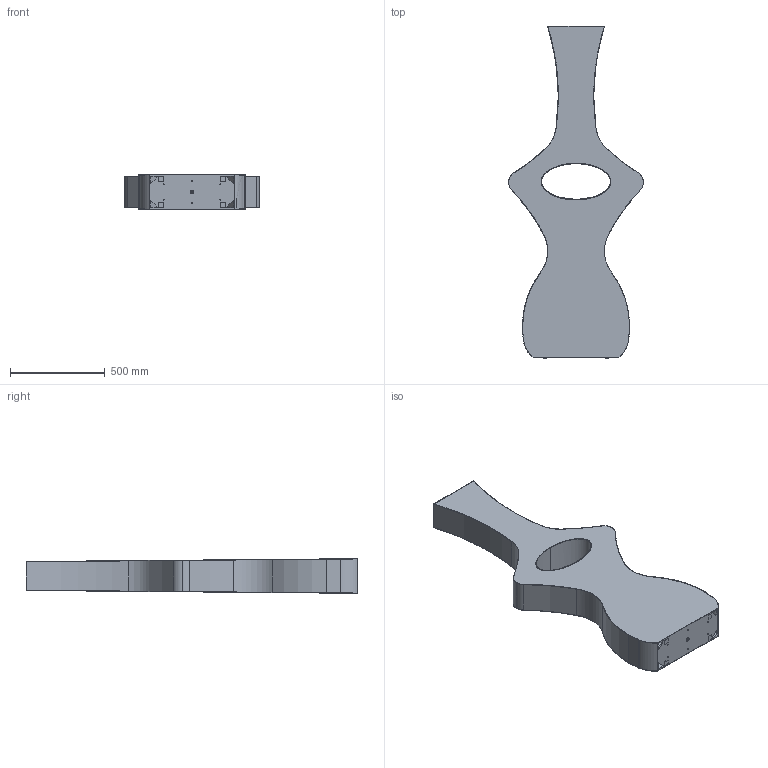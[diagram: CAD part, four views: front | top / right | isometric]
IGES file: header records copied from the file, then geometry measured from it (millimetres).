
Start section: SolidWorks IGES file using analytic representation for surfaces
Global section: file name: \\UTENTI\Dati Utenti\Tecnico\DC\2D - 3D per sito\3D\DeCastelli-3D-Isotte.igs; native system: SolidWorks 2022; preprocessor: SolidWorks 2022; author: maria; date: 240725.084307; units: millimetre
Bounding box: 712.73 x 1753.44 x 183 mm (x, y, z)
Surface area: 3775362 mm2 (no closed solid volume)
Topology: 0 solids, 0 shells, 171 faces, 2808 edges, 2808 vertices
Faces by surface type: revolution 104, bspline 67
